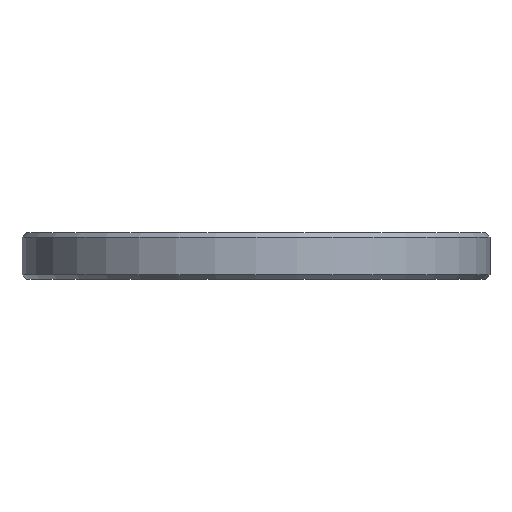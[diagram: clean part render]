
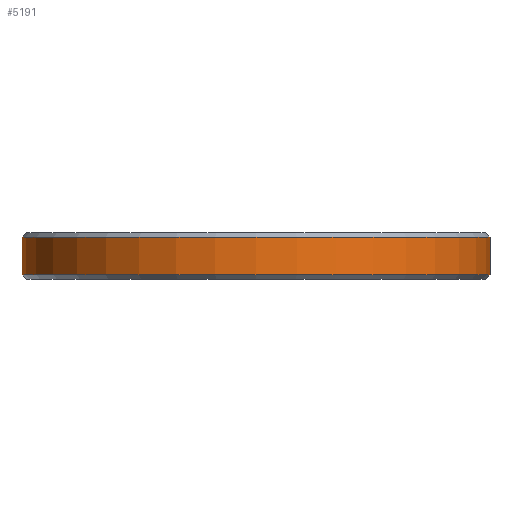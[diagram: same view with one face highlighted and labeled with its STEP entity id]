
A CAD part, front view. The second image highlights one B-rep face of the part: STEP entity #5191.
In plain terms, the highlighted cylindrical face has radius 15.625 mm (diameter 31.25 mm), a full revolution.
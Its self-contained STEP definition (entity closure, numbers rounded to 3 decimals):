
#23=CYLINDRICAL_SURFACE('',#5470,15.625);
#40=CIRCLE('',#5465,15.625);
#44=CIRCLE('',#5471,15.625);
#304=FACE_OUTER_BOUND('',#566,.T.);
#566=EDGE_LOOP('',(#4400,#4401,#4402,#4403));
#1293=LINE('',#8175,#2004);
#2004=VECTOR('',#6698,15.625);
#2480=VERTEX_POINT('',#8158);
#2486=VERTEX_POINT('',#8173);
#3196=EDGE_CURVE('',#2480,#2480,#40,.T.);
#3203=EDGE_CURVE('',#2486,#2486,#44,.T.);
#3204=EDGE_CURVE('',#2486,#2480,#1293,.T.);
#4400=ORIENTED_EDGE('',*,*,#3203,.F.);
#4401=ORIENTED_EDGE('',*,*,#3204,.T.);
#4402=ORIENTED_EDGE('',*,*,#3196,.F.);
#4403=ORIENTED_EDGE('',*,*,#3204,.F.);
#5191=ADVANCED_FACE('',(#304),#23,.T.);
#5465=AXIS2_PLACEMENT_3D('',#8159,#6681,#6682);
#5470=AXIS2_PLACEMENT_3D('',#8172,#6694,#6695);
#5471=AXIS2_PLACEMENT_3D('',#8174,#6696,#6697);
#6681=DIRECTION('center_axis',(0.,0.,-1.));
#6682=DIRECTION('ref_axis',(1.,0.,0.));
#6694=DIRECTION('center_axis',(0.,0.,1.));
#6695=DIRECTION('ref_axis',(1.,0.,0.));
#6696=DIRECTION('center_axis',(0.,0.,1.));
#6697=DIRECTION('ref_axis',(1.,0.,0.));
#6698=DIRECTION('',(0.,0.,-1.));
#8158=CARTESIAN_POINT('',(-15.625,0.,0.3));
#8159=CARTESIAN_POINT('Origin',(0.,0.,0.3));
#8172=CARTESIAN_POINT('Origin',(0.,0.,0.));
#8173=CARTESIAN_POINT('',(-15.625,0.,2.825));
#8174=CARTESIAN_POINT('Origin',(0.,0.,2.825));
#8175=CARTESIAN_POINT('',(-15.625,0.,0.));
